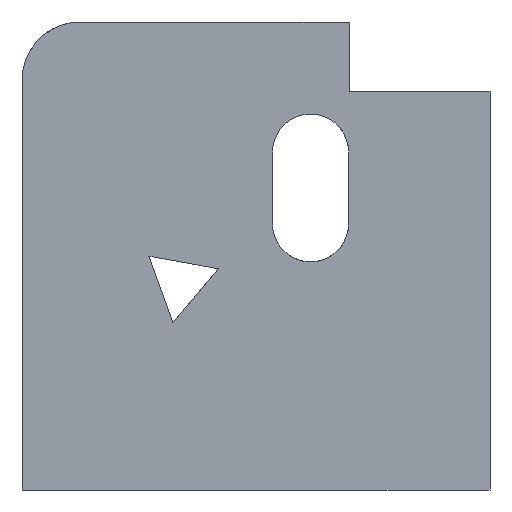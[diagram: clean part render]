
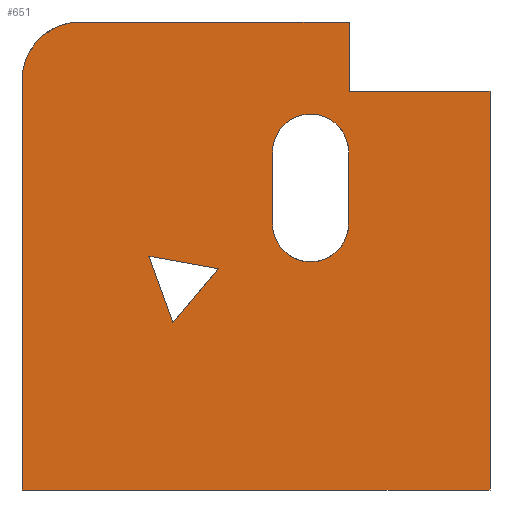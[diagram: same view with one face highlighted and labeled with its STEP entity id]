
A CAD part, left-side view. The second image highlights one B-rep face of the part: STEP entity #651.
In plain terms, the highlighted planar face has unit normal (-1, 0, 0).
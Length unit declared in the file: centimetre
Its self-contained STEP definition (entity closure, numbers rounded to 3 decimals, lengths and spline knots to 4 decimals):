
#14 = DIRECTION ( 'NONE',  ( 0., 0., 1. ) ) ;
#19 = CARTESIAN_POINT ( 'NONE',  ( 0., 302.0555, 722.0583 ) ) ;
#23 = ORIENTED_EDGE ( 'NONE', *, *, #1248, .F. ) ;
#40 = LINE ( 'NONE', #453, #509 ) ;
#43 = DIRECTION ( 'NONE',  ( -1., 0., 0. ) ) ;
#45 = DIRECTION ( 'NONE',  ( 0., -1., 0. ) ) ;
#55 = CARTESIAN_POINT ( 'NONE',  ( 0., 301.0061, 851.8414 ) ) ;
#61 = CARTESIAN_POINT ( 'NONE',  ( 0., 464.7243, 722.0583 ) ) ;
#67 = VERTEX_POINT ( 'NONE', #61 ) ;
#101 = CARTESIAN_POINT ( 'NONE',  ( 0., 464.7243, 722.0583 ) ) ;
#104 = CIRCLE ( 'NONE', #507, 81.3344 ) ;
#113 = EDGE_LOOP ( 'NONE', ( #412, #430, #1338, #344, #1033, #1137, #585 ) ) ;
#130 = DIRECTION ( 'NONE',  ( 0., 0., -1. ) ) ;
#148 = CARTESIAN_POINT ( 'NONE',  ( 0., 464.7243, 568.7991 ) ) ;
#151 = CARTESIAN_POINT ( 'NONE',  ( 0., 0., 0. ) ) ;
#160 = EDGE_CURVE ( 'NONE', #502, #428, #40, .T. ) ;
#165 = LINE ( 'NONE', #908, #510 ) ;
#166 = AXIS2_PLACEMENT_3D ( 'NONE', #602, #1022, #211 ) ;
#185 = EDGE_CURVE ( 'NONE', #630, #342, #354, .T. ) ;
#188 = VERTEX_POINT ( 'NONE', #1202 ) ;
#207 = EDGE_CURVE ( 'NONE', #428, #628, #1334, .T. ) ;
#210 = VERTEX_POINT ( 'NONE', #398 ) ;
#211 = DIRECTION ( 'NONE',  ( 0., 0., 1. ) ) ;
#213 = VECTOR ( 'NONE', #1333, 100. ) ;
#217 = AXIS2_PLACEMENT_3D ( 'NONE', #616, #935, #130 ) ;
#222 = EDGE_LOOP ( 'NONE', ( #1188, #23, #912, #284, #1143 ) ) ;
#228 = DIRECTION ( 'NONE',  ( 0., -1., 0. ) ) ;
#250 = LINE ( 'NONE', #773, #1236 ) ;
#256 = CARTESIAN_POINT ( 'NONE',  ( 0., 0., 851.8414 ) ) ;
#284 = ORIENTED_EDGE ( 'NONE', *, *, #975, .F. ) ;
#342 = VERTEX_POINT ( 'NONE', #19 ) ;
#344 = ORIENTED_EDGE ( 'NONE', *, *, #609, .F. ) ;
#346 = ORIENTED_EDGE ( 'NONE', *, *, #160, .F. ) ;
#348 = EDGE_CURVE ( 'NONE', #67, #527, #728, .T. ) ;
#354 = LINE ( 'NONE', #774, #598 ) ;
#355 = EDGE_CURVE ( 'NONE', #450, #720, #1103, .T. ) ;
#358 = DIRECTION ( 'NONE',  ( 0., 0., 1. ) ) ;
#361 = VECTOR ( 'NONE', #228, 100. ) ;
#364 = VECTOR ( 'NONE', #423, 100. ) ;
#392 = DIRECTION ( 'NONE',  ( 0., -1., 0. ) ) ;
#398 = CARTESIAN_POINT ( 'NONE',  ( 0., 383.3899, 803.3927 ) ) ;
#412 = ORIENTED_EDGE ( 'NONE', *, *, #1243, .F. ) ;
#423 = DIRECTION ( 'NONE',  ( 0., 0., -1. ) ) ;
#428 = VERTEX_POINT ( 'NONE', #828 ) ;
#430 = ORIENTED_EDGE ( 'NONE', *, *, #1307, .F. ) ;
#450 = VERTEX_POINT ( 'NONE', #744 ) ;
#453 = CARTESIAN_POINT ( 'NONE',  ( 0., 728.6887, 499.558 ) ) ;
#457 = CARTESIAN_POINT ( 'NONE',  ( 0., 579.839, 472.7217 ) ) ;
#462 = AXIS2_PLACEMENT_3D ( 'NONE', #1165, #43, #358 ) ;
#467 = DIRECTION ( 'NONE',  ( 0., -0.338, -0.941 ) ) ;
#481 = DIRECTION ( 'NONE',  ( 0., 0., -1. ) ) ;
#483 = EDGE_LOOP ( 'NONE', ( #346, #1084, #698 ) ) ;
#484 = DIRECTION ( 'NONE',  ( 0., 0., -1. ) ) ;
#487 = CIRCLE ( 'NONE', #166, 81.3344 ) ;
#502 = VERTEX_POINT ( 'NONE', #671 ) ;
#503 = CARTESIAN_POINT ( 'NONE',  ( 0., 1000., 0. ) ) ;
#507 = AXIS2_PLACEMENT_3D ( 'NONE', #1233, #825, #14 ) ;
#509 = VECTOR ( 'NONE', #467, 100. ) ;
#510 = VECTOR ( 'NONE', #392, 100. ) ;
#514 = VERTEX_POINT ( 'NONE', #256 ) ;
#527 = VERTEX_POINT ( 'NONE', #148 ) ;
#547 = CARTESIAN_POINT ( 'NONE',  ( 0., 302.0555, 568.7991 ) ) ;
#557 = CARTESIAN_POINT ( 'NONE',  ( 0., 301.0061, 851.8414 ) ) ;
#560 = CARTESIAN_POINT ( 'NONE',  ( 0., 301.0061, 1000. ) ) ;
#566 = DIRECTION ( 'NONE',  ( 0., 0., 1. ) ) ;
#567 = EDGE_CURVE ( 'NONE', #628, #502, #250, .T. ) ;
#583 = VERTEX_POINT ( 'NONE', #560 ) ;
#585 = ORIENTED_EDGE ( 'NONE', *, *, #695, .T. ) ;
#594 = FACE_BOUND ( 'NONE', #222, .T. ) ;
#595 = AXIS2_PLACEMENT_3D ( 'NONE', #699, #1227, #481 ) ;
#598 = VECTOR ( 'NONE', #566, 100. ) ;
#602 = CARTESIAN_POINT ( 'NONE',  ( 0., 383.3899, 722.0583 ) ) ;
#609 = EDGE_CURVE ( 'NONE', #450, #583, #974, .T. ) ;
#616 = CARTESIAN_POINT ( 'NONE',  ( 0., 875.2737, 875.2737 ) ) ;
#628 = VERTEX_POINT ( 'NONE', #457 ) ;
#630 = VERTEX_POINT ( 'NONE', #547 ) ;
#644 = EDGE_CURVE ( 'NONE', #720, #1239, #1008, .T. ) ;
#651 = ADVANCED_FACE ( 'NONE', ( #594, #1312, #786 ), #1201, .F. ) ;
#656 = DIRECTION ( 'NONE',  ( 0., 0.984, 0.177 ) ) ;
#671 = CARTESIAN_POINT ( 'NONE',  ( 0., 728.6887, 499.558 ) ) ;
#695 = EDGE_CURVE ( 'NONE', #1239, #1292, #165, .T. ) ;
#698 = ORIENTED_EDGE ( 'NONE', *, *, #207, .F. ) ;
#699 = CARTESIAN_POINT ( 'NONE',  ( 0., 1000., 1000. ) ) ;
#720 = VERTEX_POINT ( 'NONE', #1327 ) ;
#728 = LINE ( 'NONE', #101, #364 ) ;
#729 = VECTOR ( 'NONE', #1144, 100. ) ;
#744 = CARTESIAN_POINT ( 'NONE',  ( 0., 875.2737, 1000. ) ) ;
#745 = LINE ( 'NONE', #557, #361 ) ;
#746 = EDGE_CURVE ( 'NONE', #342, #210, #487, .T. ) ;
#752 = VECTOR ( 'NONE', #484, 100. ) ;
#773 = CARTESIAN_POINT ( 'NONE',  ( 0., 579.839, 472.7217 ) ) ;
#774 = CARTESIAN_POINT ( 'NONE',  ( 0., 302.0555, 568.7991 ) ) ;
#786 = FACE_OUTER_BOUND ( 'NONE', #113, .T. ) ;
#800 = VECTOR ( 'NONE', #45, 100. ) ;
#825 = DIRECTION ( 'NONE',  ( -1., 0., 0. ) ) ;
#828 = CARTESIAN_POINT ( 'NONE',  ( 0., 677.5048, 357.2322 ) ) ;
#830 = LINE ( 'NONE', #924, #729 ) ;
#908 = CARTESIAN_POINT ( 'NONE',  ( 0., 1000., 0. ) ) ;
#912 = ORIENTED_EDGE ( 'NONE', *, *, #348, .F. ) ;
#913 = CARTESIAN_POINT ( 'NONE',  ( 0., 1000., 1000. ) ) ;
#924 = CARTESIAN_POINT ( 'NONE',  ( 0., 0., 1000. ) ) ;
#935 = DIRECTION ( 'NONE',  ( -1., 0., 0. ) ) ;
#974 = LINE ( 'NONE', #1189, #800 ) ;
#975 = EDGE_CURVE ( 'NONE', #210, #67, #1209, .T. ) ;
#996 = CARTESIAN_POINT ( 'NONE',  ( 0., 677.5048, 357.2322 ) ) ;
#1008 = LINE ( 'NONE', #913, #213 ) ;
#1017 = DIRECTION ( 'NONE',  ( 0., -0.646, 0.764 ) ) ;
#1022 = DIRECTION ( 'NONE',  ( -1., 0., 0. ) ) ;
#1024 = EDGE_CURVE ( 'NONE', #583, #188, #1316, .T. ) ;
#1033 = ORIENTED_EDGE ( 'NONE', *, *, #355, .T. ) ;
#1084 = ORIENTED_EDGE ( 'NONE', *, *, #567, .F. ) ;
#1103 = CIRCLE ( 'NONE', #217, 124.7263 ) ;
#1137 = ORIENTED_EDGE ( 'NONE', *, *, #644, .T. ) ;
#1143 = ORIENTED_EDGE ( 'NONE', *, *, #746, .F. ) ;
#1144 = DIRECTION ( 'NONE',  ( 0., 0., -1. ) ) ;
#1165 = CARTESIAN_POINT ( 'NONE',  ( 0., 383.3899, 722.0583 ) ) ;
#1188 = ORIENTED_EDGE ( 'NONE', *, *, #185, .F. ) ;
#1189 = CARTESIAN_POINT ( 'NONE',  ( 0., 1000., 1000. ) ) ;
#1191 = VECTOR ( 'NONE', #1017, 100. ) ;
#1201 = PLANE ( 'NONE',  #595 ) ;
#1202 = CARTESIAN_POINT ( 'NONE',  ( 0., 301.0061, 851.8414 ) ) ;
#1209 = CIRCLE ( 'NONE', #462, 81.3344 ) ;
#1227 = DIRECTION ( 'NONE',  ( 1., 0., 0. ) ) ;
#1233 = CARTESIAN_POINT ( 'NONE',  ( 0., 383.3899, 568.7991 ) ) ;
#1236 = VECTOR ( 'NONE', #656, 100. ) ;
#1239 = VERTEX_POINT ( 'NONE', #503 ) ;
#1243 = EDGE_CURVE ( 'NONE', #514, #1292, #830, .T. ) ;
#1248 = EDGE_CURVE ( 'NONE', #527, #630, #104, .T. ) ;
#1292 = VERTEX_POINT ( 'NONE', #151 ) ;
#1307 = EDGE_CURVE ( 'NONE', #188, #514, #745, .T. ) ;
#1312 = FACE_BOUND ( 'NONE', #483, .T. ) ;
#1316 = LINE ( 'NONE', #55, #752 ) ;
#1327 = CARTESIAN_POINT ( 'NONE',  ( 0., 1000., 875.2737 ) ) ;
#1333 = DIRECTION ( 'NONE',  ( 0., 0., -1. ) ) ;
#1334 = LINE ( 'NONE', #996, #1191 ) ;
#1338 = ORIENTED_EDGE ( 'NONE', *, *, #1024, .F. ) ;
